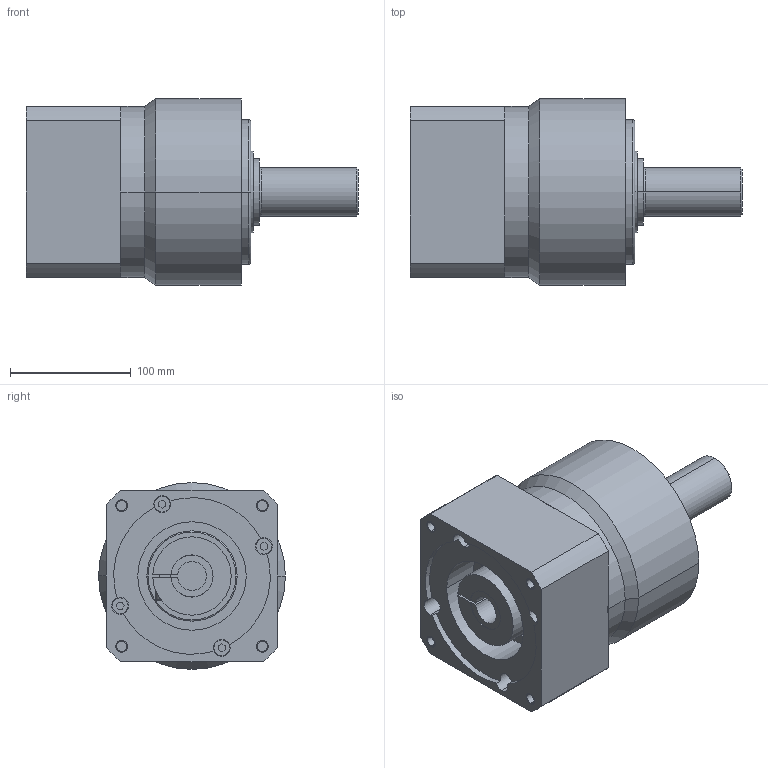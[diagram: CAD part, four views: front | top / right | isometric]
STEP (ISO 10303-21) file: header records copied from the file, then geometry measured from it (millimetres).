
FILE_DESCRIPTION((''),'2;1');
FILE_NAME('MB_PLPE_MASTER','2020-02-11T',('agw'),(''),'CREO PARAMETRIC BY PTC INC, 2015290','CREO PARAMETRIC BY PTC INC, 2015290','');
FILE_SCHEMA(('AUTOMOTIVE_DESIGN { 1 0 10303 214 1 1 1 1 }'));
Length unit declared in the file: millimetre
Products named in the file (1): MB_PLPE_MASTER
Bounding box: 275.5 x 155 x 155 mm (x, y, z)
Volume: 3349640.8 mm3; surface area: 203408.6 mm2
Topology: 1 solids, 9 shells, 183 faces, 431 edges, 282 vertices
Faces by surface type: cylinder 86, plane 85, torus 8, cone 4
Entity records: 6023 total; most frequent: DIRECTION 999, CARTESIAN_POINT 924, ORIENTED_EDGE 830, EDGE_CURVE 431, AXIS2_PLACEMENT_3D 385, VERTEX_POINT 282, VECTOR 229, LINE 229
